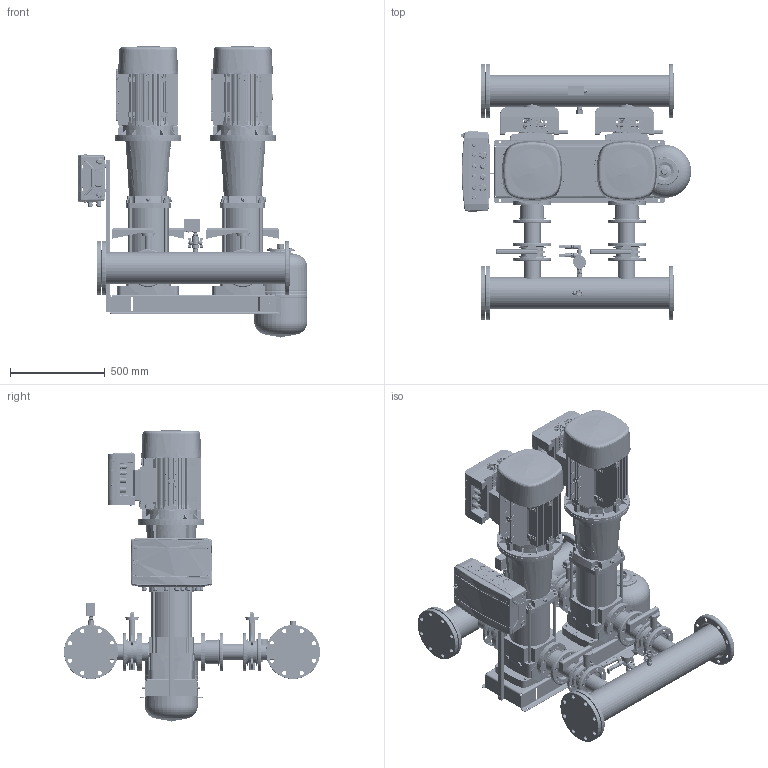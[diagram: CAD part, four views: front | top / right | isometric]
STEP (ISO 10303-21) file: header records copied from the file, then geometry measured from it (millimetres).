
FILE_DESCRIPTION(('CATIA V5 STEP Exchange','CAx-IF Rec.Pracs.--- Model Styling and Organization---1.4--- 2014-01-23','CAx-IF Rec.Pracs.---3D Tessellated Data Validation Properties---0.5---2014-09-14'),'2;1');
FILE_NAME('C:\Users\78432\YandexDisk\Drawings and 3D\3D Hydro Booster\Hydro-ME 3D\Hydro Models\Hydro ME 2 CRV45-xx\Hydro ME 2 CRVE45-3-2.stp','2023-09-21T07:25:55+00:00',('none'),('none'),'CATIA Version 5-6 Release 2019 SP6','CATIA V5 STEP AP242 v1','none');
FILE_SCHEMA(('AP242_MANAGED_MODEL_BASED_3D_ENGINEERING_MIM_LF {1 0 10303 442 1 1 4}'));
Length unit declared in the file: millimetre
Products named in the file (52): Hydro ME 2 CRVE45-3-2; 92051011; CRV45-3-2 set; CRV 45-3-2_DIN_11kW; Base; Flange.1; Flange.2; Sleeve; Pumphead; Staybolt.1; Staybolt.2; Staybolt.3; Staybolt.4; AirVent; Motor; Plug; Non-Return Valve DN80 cpl.; 92802787; 00id2588; Buttefly Valve DN80 cpl.; 92802780; 96619630#01_GMR; 91070073; 91071907; 99110037; SAJ PDH30 11-18,5kW; 97941448; 405801; 91041071; 91070076; 99110040; 97941485; 00ID6961; Holder and CP 18mod; 92878909; Control ME (18mod); 2 sensors + manometer cpl.; manometr 16 bar; RPD-I-G1_2; 9021-01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
Assembly tree (69 placements, depth 4):
  Hydro ME 2 CRVE45-3-2
    92051011
    CRV45-3-2 set  x2
      CRV 45-3-2_DIN_11kW
        Base
        Flange.1
        Flange.2
        Sleeve
        Pumphead
        Staybolt.1
        Staybolt.2
        Staybolt.3
        Staybolt.4
        AirVent
        Motor
        Plug
      Non-Return Valve DN80 cpl.
        92802787
        00id2588  x2
      Buttefly Valve DN80 cpl.
        92802780
        00id2588  x2
      96619630#01_GMR
        91070073  x2
        91071907
        99110037  x2
      SAJ PDH30 11-18,5kW
    97941448  x2
      405801
      91041071
      91070073
      91070076
      99110037
      99110040
      97941485
    00ID6961  x2
    Holder and CP 18mod
      92878909
      Control ME (18mod)
    2 sensors + manometer cpl.
      manometr 16 bar
      RPD-I-G1_2  x2
      9021-01
      2070 1/2-1/2
      _2020 1/2-1/2
      98594078
    Tank 24L cpl.
      DN20_FF_BF_47.300.20
      9021-03
    Relay cpl.
      Relay RD-2R
      DN20_FF_BF_47.300.20
      2530 3/4-1/2
      _2530 1/2-1/4
    91078139
  WAV-24(D140 1'')
Bounding box: 1216.82 x 1352.3 x 1540.85 mm (x, y, z)
Volume: 199929970.8 mm3; surface area: 16252641.4 mm2
Topology: 196 solids, 3148 shells, 30085 faces, 95268 edges, 69436 vertices
Faces by surface type: plane 14464, bspline 7058, cylinder 6659, cone 1261, torus 470, sphere 133, extrusion 40
Entity records: 787426 total; most frequent: CARTESIAN_POINT 369689, ORIENTED_EDGE 101649, EDGE_CURVE 55395, DIRECTION 50466, VERTEX_POINT 39803, VECTOR 27448, LINE 27428, EDGE_LOOP 19850
